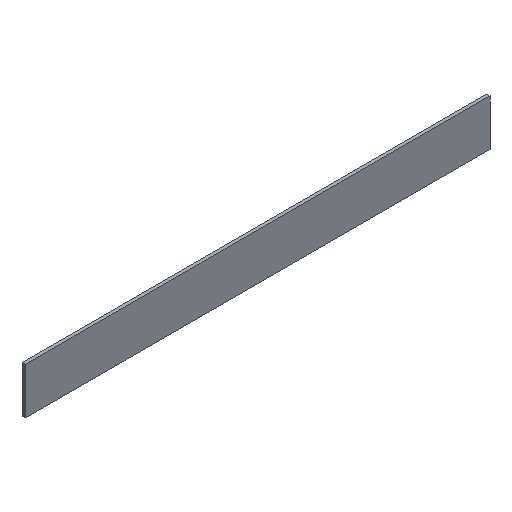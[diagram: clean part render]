
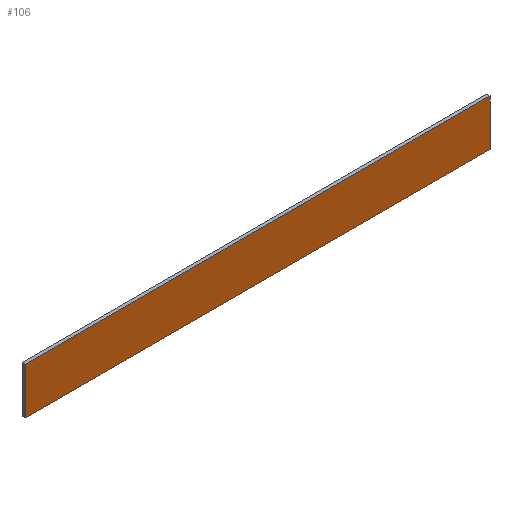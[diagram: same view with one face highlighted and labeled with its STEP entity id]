
A CAD part, isometric view. The second image highlights one B-rep face of the part: STEP entity #106.
In plain terms, the highlighted planar face has unit normal (0, -1, 0).
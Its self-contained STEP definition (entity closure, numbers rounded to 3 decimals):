
#20=ORIENTED_EDGE('',*,*,#44,.F.);
#21=ORIENTED_EDGE('',*,*,#45,.F.);
#22=ORIENTED_EDGE('',*,*,#46,.F.);
#23=ORIENTED_EDGE('',*,*,#47,.F.);
#44=EDGE_CURVE('',#56,#57,#64,.T.);
#45=EDGE_CURVE('',#58,#56,#65,.T.);
#46=EDGE_CURVE('',#59,#58,#66,.T.);
#47=EDGE_CURVE('',#57,#59,#67,.T.);
#56=VERTEX_POINT('',#160);
#57=VERTEX_POINT('',#161);
#58=VERTEX_POINT('',#163);
#59=VERTEX_POINT('',#165);
#64=LINE('',#159,#76);
#65=LINE('',#162,#77);
#66=LINE('',#164,#78);
#67=LINE('',#166,#79);
#76=VECTOR('',#135,1000.);
#77=VECTOR('',#136,1000.);
#78=VECTOR('',#137,1000.);
#79=VECTOR('',#138,1000.);
#88=EDGE_LOOP('',(#20,#21,#22,#23));
#94=FACE_BOUND('',#88,.T.);
#100=PLANE('',#125);
#106=ADVANCED_FACE('',(#94),#100,.F.);
#125=AXIS2_PLACEMENT_3D('',#158,#133,#134);
#133=DIRECTION('',(0.,1.,0.));
#134=DIRECTION('',(1.,0.,0.));
#135=DIRECTION('',(-1.,0.,0.));
#136=DIRECTION('',(0.,0.,-1.));
#137=DIRECTION('',(1.,0.,0.));
#138=DIRECTION('',(0.,0.,1.));
#158=CARTESIAN_POINT('',(-110.58,-2.4,-0.268));
#159=CARTESIAN_POINT('',(89.42,-2.4,-10.268));
#160=CARTESIAN_POINT('',(89.42,-2.4,-10.268));
#161=CARTESIAN_POINT('',(-110.58,-2.4,-10.268));
#162=CARTESIAN_POINT('',(89.42,-2.4,9.732));
#163=CARTESIAN_POINT('',(89.42,-2.4,9.732));
#164=CARTESIAN_POINT('',(-110.58,-2.4,9.732));
#165=CARTESIAN_POINT('',(-110.58,-2.4,9.732));
#166=CARTESIAN_POINT('',(-110.58,-2.4,-10.268));
